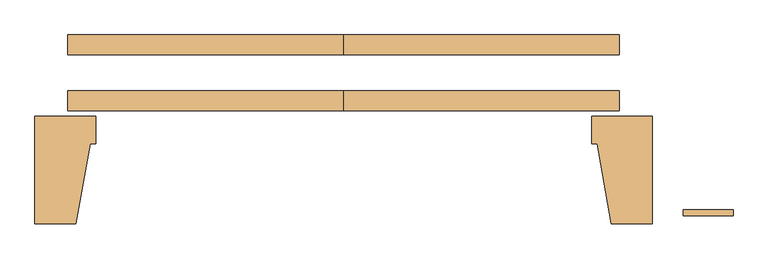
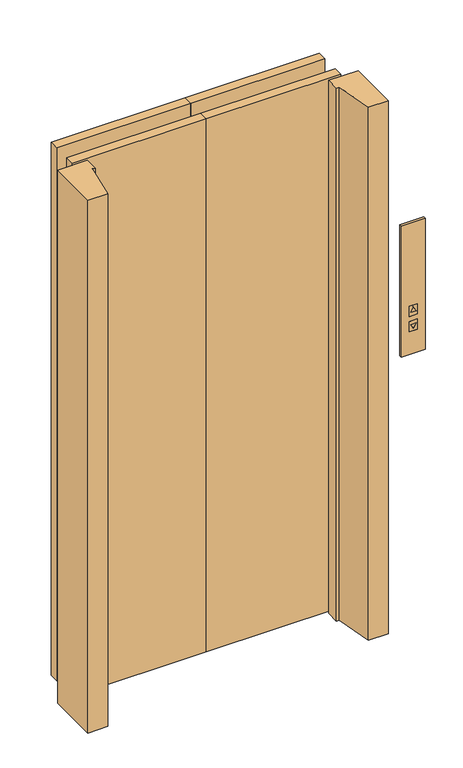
"""IFC4 building model written with IfcOpenShell, lengths in millimetres: door geometry, 営_EVドア : EVドア."""

from ifc_helpers import new_model, si_unit, frame, origin, origin_with_axes, place, context, project, spatial, polyline, outline, extrude, source, transform, mapped, element, save


def door_9fa6e922(model_context):
    return source(origin(), model_context, "Body", "SweptSolid", [
        extrude(outline(polyline([(1241.6088693, 661.5), (1224.2883612, 651.5), (1224.2883612, 671.5), (1241.6088693, 661.5)])), frame((0.0, -85.0, 0.0), z_axis=(0.0, 1.0, 0.0), x_axis=(0.0, 0.0, 1.0)), (0.0, 0.0, 1.0), 5.0),
        extrude(outline(polyline([(1175.7116388, 651.5), (1158.3911307, 661.5), (1175.7116388, 671.5), (1175.7116388, 651.5)])), frame((0.0, -85.0, 0.0), z_axis=(0.0, 1.0, 0.0), x_axis=(0.0, 0.0, 1.0)), (0.0, 0.0, 1.0), 5.0),
        extrude(outline(polyline([(1190.0, 676.5), (1190.0, 646.5), (1150.0, 646.5), (1150.0, 676.5), (1190.0, 676.5)]), holes=[polyline([(1175.7116388, 651.5), (1175.7116388, 671.5), (1158.3911307, 661.5), (1175.7116388, 651.5)])]), frame((0.0, -85.0, 0.0), z_axis=(0.0, 1.0, 0.0), x_axis=(0.0, 0.0, 1.0)), (0.0, 0.0, 1.0), 5.0),
        extrude(outline(polyline([(1210.0, 676.5), (1250.0, 676.5), (1250.0, 646.5), (1210.0, 646.5), (1210.0, 676.5)]), holes=[polyline([(1224.2883612, 651.5), (1241.6088693, 661.5), (1224.2883612, 671.5), (1224.2883612, 651.5)])]), frame((0.0, -85.0, 0.0), z_axis=(0.0, 1.0, 0.0), x_axis=(0.0, 0.0, 1.0)), (0.0, 0.0, 1.0), 5.0),
        extrude(outline(polyline([(1575.2184789, 706.5), (1575.2184789, 616.5), (1060.2184789, 616.5), (1060.2184789, 706.5), (1575.2184789, 706.5)]), holes=[polyline([(1250.0, 646.5), (1250.0, 676.5), (1210.0, 676.5), (1210.0, 646.5), (1250.0, 646.5)]), polyline([(1190.0, 646.5), (1190.0, 676.5), (1150.0, 676.5), (1150.0, 646.5), (1190.0, 646.5)])]), frame((0.0, -85.0, 0.0), z_axis=(0.0, 1.0, 0.0), x_axis=(0.0, 0.0, 1.0)), (0.0, 0.0, 1.0), 10.0),
        extrude(outline(polyline([(-485.5674122, -100.0), (-560.0, -100.0), (-560.0, 95.0), (-450.0, 95.0), (-450.0, 45.0), (-460.0, 45.0), (-485.5674122, -100.0)])), origin_with_axes(), (0.0, 0.0, 1.0), 2100.0),
        extrude(outline(polyline([(485.5674122, -100.0), (460.0, 45.0), (450.0, 45.0), (450.0, 95.0), (560.0, 95.0), (560.0, -100.0), (485.5674122, -100.0)])), origin_with_axes(), (0.0, 0.0, 1.0), 2100.0),
        extrude(outline(polyline([(500.0, 105.0), (0.0, 105.0), (0.0, 141.0), (500.0, 141.0), (500.0, 105.0)])), origin_with_axes(), (0.0, 0.0, 1.0), 2100.0),
        extrude(outline(polyline([(500.0, 206.5), (0.0, 206.5), (0.0, 242.5), (500.0, 242.5), (500.0, 206.5)])), origin_with_axes(), (0.0, 0.0, 1.0), 2100.0),
        extrude(outline(polyline([(-500.0, 105.0), (-500.0, 141.0), (0.0, 141.0), (0.0, 105.0), (-500.0, 105.0)])), origin_with_axes(), (0.0, 0.0, 1.0), 2100.0),
        extrude(outline(polyline([(-500.0, 206.5), (-500.0, 242.5), (0.0, 242.5), (0.0, 206.5), (-500.0, 206.5)])), origin_with_axes(), (0.0, 0.0, 1.0), 2100.0),
    ])


if __name__ == "__main__":
    model = new_model("IFC4")
    model_context = context("Model", 3, world=origin())
    ifc_project = project(units=[si_unit("LENGTHUNIT", "METRE", prefix="MILLI")], contexts=[model_context])
    site = spatial("IfcSite", under=ifc_project)
    building = spatial("IfcBuilding", under=site)
    placement = place(None, origin())
    door_shape = door_9fa6e922(model_context)
    element("IfcDoor", 1, ObjectType="営_EVドア : EVドア", at=placement, inside=building, context=model_context, shape_type="MappedRepresentation", body=[
        mapped(door_shape, transform((0.0, 0.0, 0.0), x_axis=(1.0, 0.0, 0.0), y_axis=(0.0, 1.0, 0.0), z_axis=(0.0, 0.0, 1.0))),
    ])
    save(model, "model.ifc")
